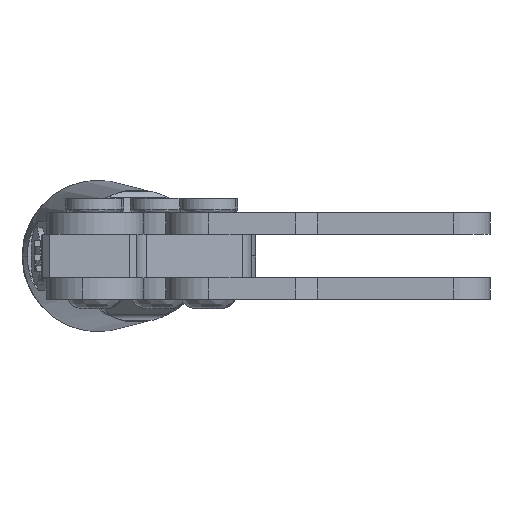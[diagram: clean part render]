
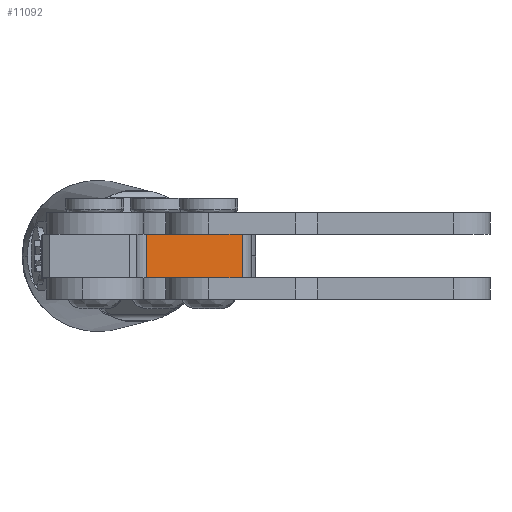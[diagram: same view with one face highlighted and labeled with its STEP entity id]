
A CAD part, left-side view. The second image highlights one B-rep face of the part: STEP entity #11092.
In plain terms, the highlighted planar face has unit normal (-0.753, -0.658, 0).
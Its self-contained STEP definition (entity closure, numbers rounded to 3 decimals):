
#800 = DIRECTION ( 'NONE',  ( 0.659, -0.753, 0. ) ) ;
#1909 = AXIS2_PLACEMENT_3D ( 'NONE', #20313, #17581, #6559 ) ;
#1974 = VECTOR ( 'NONE', #29773, 1000. ) ;
#2086 = VERTEX_POINT ( 'NONE', #15076 ) ;
#2087 = CARTESIAN_POINT ( 'NONE',  ( 73.055, -27.634, -6. ) ) ;
#2405 = VECTOR ( 'NONE', #24404, 1000. ) ;
#3852 = VECTOR ( 'NONE', #800, 1000. ) ;
#3874 = EDGE_CURVE ( 'NONE', #12192, #21325, #5986, .T. ) ;
#5695 = EDGE_CURVE ( 'NONE', #12192, #7659, #15423, .T. ) ;
#5799 = LINE ( 'NONE', #24224, #3852 ) ;
#5986 = LINE ( 'NONE', #15187, #2405 ) ;
#6559 = DIRECTION ( 'NONE',  ( 0.659, -0.753, 0. ) ) ;
#7484 = EDGE_CURVE ( 'NONE', #7659, #2086, #5799, .T. ) ;
#7490 = ORIENTED_EDGE ( 'NONE', *, *, #5695, .T. ) ;
#7659 = VERTEX_POINT ( 'NONE', #11907 ) ;
#10203 = EDGE_CURVE ( 'NONE', #21325, #2086, #22624, .T. ) ;
#11092 = ADVANCED_FACE ( 'NONE', ( #15923 ), #29379, .T. ) ;
#11347 = ORIENTED_EDGE ( 'NONE', *, *, #3874, .F. ) ;
#11907 = CARTESIAN_POINT ( 'NONE',  ( 61.445, -14.366, -6. ) ) ;
#12192 = VERTEX_POINT ( 'NONE', #25745 ) ;
#13393 = DIRECTION ( 'NONE',  ( 0., 0., -1. ) ) ;
#13753 = CARTESIAN_POINT ( 'NONE',  ( 61.445, -14.366, -6. ) ) ;
#14358 = ORIENTED_EDGE ( 'NONE', *, *, #7484, .T. ) ;
#15076 = CARTESIAN_POINT ( 'NONE',  ( 73.055, -27.634, -6. ) ) ;
#15187 = CARTESIAN_POINT ( 'NONE',  ( 61.445, -14.366, 0. ) ) ;
#15423 = LINE ( 'NONE', #13753, #1974 ) ;
#15492 = VECTOR ( 'NONE', #13393, 1000. ) ;
#15923 = FACE_OUTER_BOUND ( 'NONE', #24504, .T. ) ;
#17581 = DIRECTION ( 'NONE',  ( -0.753, -0.659, 0. ) ) ;
#17900 = ORIENTED_EDGE ( 'NONE', *, *, #10203, .F. ) ;
#20313 = CARTESIAN_POINT ( 'NONE',  ( 73.055, -27.634, -6. ) ) ;
#20472 = CARTESIAN_POINT ( 'NONE',  ( 73.055, -27.634, 0. ) ) ;
#21325 = VERTEX_POINT ( 'NONE', #20472 ) ;
#22624 = LINE ( 'NONE', #2087, #15492 ) ;
#24224 = CARTESIAN_POINT ( 'NONE',  ( 73.055, -27.634, -6. ) ) ;
#24404 = DIRECTION ( 'NONE',  ( 0.659, -0.753, 0. ) ) ;
#24504 = EDGE_LOOP ( 'NONE', ( #14358, #17900, #11347, #7490 ) ) ;
#25745 = CARTESIAN_POINT ( 'NONE',  ( 61.445, -14.366, 0. ) ) ;
#29379 = PLANE ( 'NONE',  #1909 ) ;
#29773 = DIRECTION ( 'NONE',  ( 0., 0., -1. ) ) ;
